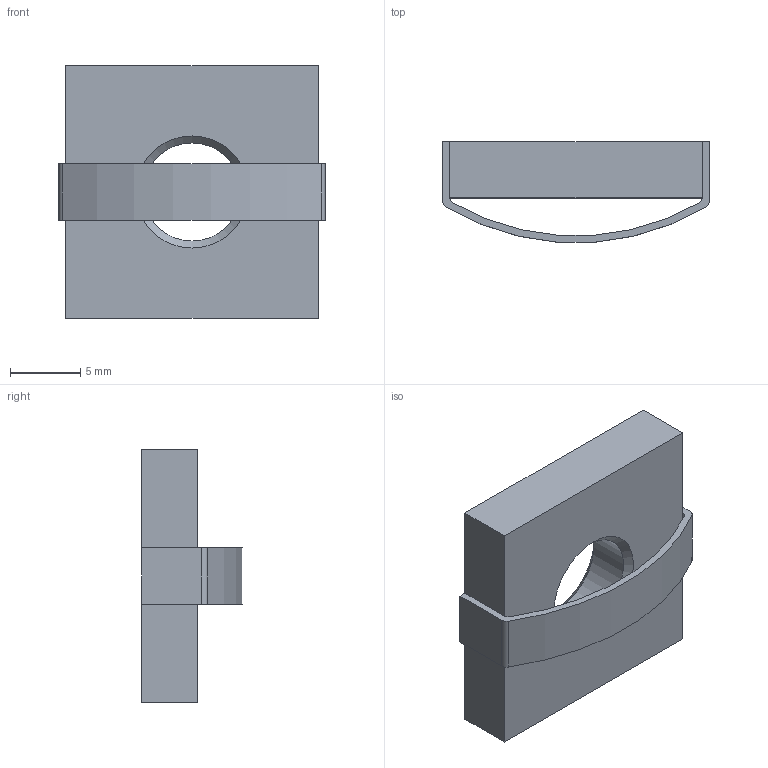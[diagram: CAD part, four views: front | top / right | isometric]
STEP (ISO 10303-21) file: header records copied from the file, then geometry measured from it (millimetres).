
FILE_DESCRIPTION (( 'STEP AP214' ), '1' );
FILE_NAME ('SNSD.30.51.31. Ñóõàðü ïàçîâûé ñ ïðóæèííîé ïëàñòèíîé M8, ïàç 10(B78).STEP', '2014-12-01T08:33:27', ( 'XTreme.ws' ), ( 'XTreme.ws' ), 'SwSTEP 2.0', 'SolidWorks 2014', '' );
FILE_SCHEMA (( 'AUTOMOTIVE_DESIGN' ));
Length unit declared in the file: millimetre
Products named in the file (3): SNSD.30.51.19. Ñóõàðü ïàçîâûé ñ ïðóæèííîé ïëàñòèíîé M6, ïàç 8(B79)B80B78_00; SNSD.30.51.19. ﾏ跖浯(B79)B80B78_00; SNSD.30.51.31. Ñóõàðü ïàçîâûé ñ ïðóæèííîé ïëàñòèíîé M8, ïàç 10(B78)
Assembly tree (2 placements, depth 2):
  SNSD.30.51.31. Ñóõàðü ïàçîâûé ñ ïðóæèííîé ïëàñòèíîé M8, ïàç 10(B78)
    SNSD.30.51.19. Ñóõàðü ïàçîâûé ñ ïðóæèííîé ïëàñòèíîé M6, ïàç 8(B79)B80B78_00
    SNSD.30.51.19. ﾏ跖浯(B79)B80B78_00
Bounding box: 19 x 7.15 x 18 mm (x, y, z)
Volume: 1192.7 mm3; surface area: 1191.5 mm2
Topology: 2 solids, 2 shells, 26 faces, 62 edges, 40 vertices
Faces by surface type: plane 14, cylinder 8, cone 4
Entity records: 890 total; most frequent: DIRECTION 144, CARTESIAN_POINT 133, ORIENTED_EDGE 124, EDGE_CURVE 62, AXIS2_PLACEMENT_3D 51, VECTOR 42, LINE 42, VERTEX_POINT 40
